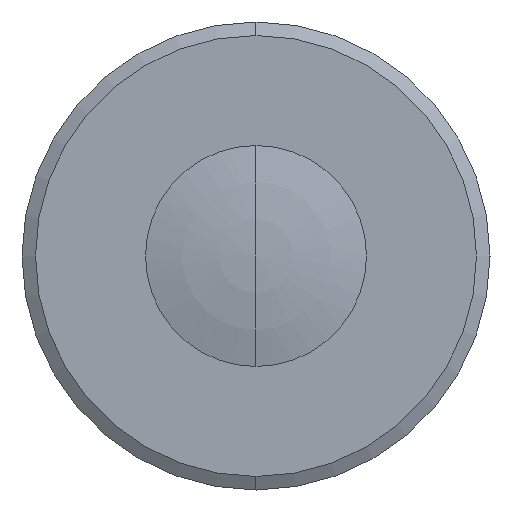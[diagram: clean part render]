
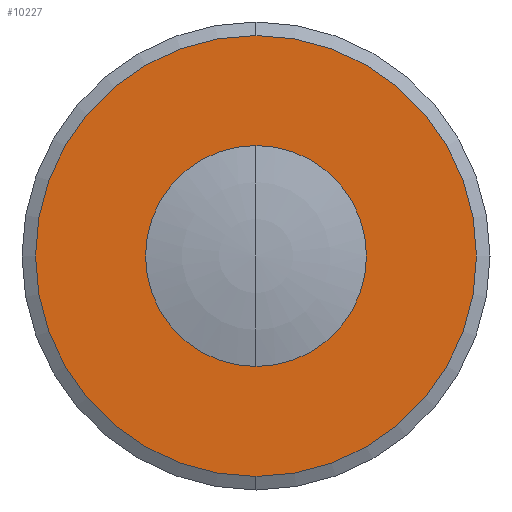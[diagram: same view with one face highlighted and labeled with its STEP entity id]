
A CAD part, left-side view. The second image highlights one B-rep face of the part: STEP entity #10227.
In plain terms, the highlighted planar face has unit normal (-1, 0, 0).
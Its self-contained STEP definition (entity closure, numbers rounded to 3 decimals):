
#3660 = EDGE_LOOP ( 'NONE', ( #9018, #9019 ) ) ;
#3662 = EDGE_LOOP ( 'NONE', ( #9020, #9021 ) ) ;
#3732 = CARTESIAN_POINT ( 'NONE',  ( 9.037, 0., -4.25 ) ) ;
#4511 = AXIS2_PLACEMENT_3D ( 'NONE', #7322, #7327, #7328 ) ;
#4572 = AXIS2_PLACEMENT_3D ( 'NONE', #5007, #5006, #5005 ) ;
#4573 = AXIS2_PLACEMENT_3D ( 'NONE', #5010, #5009, #5008 ) ;
#4582 = AXIS2_PLACEMENT_3D ( 'NONE', #5038, #5037, #5036 ) ;
#4583 = AXIS2_PLACEMENT_3D ( 'NONE', #5046, #5045, #5044 ) ;
#4788 = EDGE_CURVE ( 'NONE', #9327, #9379, #8382, .T. ) ;
#4791 = EDGE_CURVE ( 'NONE', #9328, #9283, #8380, .T. ) ;
#4802 = EDGE_CURVE ( 'NONE', #9283, #9328, #8363, .T. ) ;
#4803 = EDGE_CURVE ( 'NONE', #9379, #9327, #8362, .T. ) ;
#5005 = DIRECTION ( 'NONE',  ( 0., 0., 1. ) ) ;
#5006 = DIRECTION ( 'NONE',  ( -1., 0., 0. ) ) ;
#5007 = CARTESIAN_POINT ( 'NONE',  ( 9.037, 0., 0. ) ) ;
#5008 = DIRECTION ( 'NONE',  ( 0., 0., 1. ) ) ;
#5009 = DIRECTION ( 'NONE',  ( -1., 0., 0. ) ) ;
#5010 = CARTESIAN_POINT ( 'NONE',  ( 9.037, 0., 0. ) ) ;
#5036 = DIRECTION ( 'NONE',  ( 0., 0., 1. ) ) ;
#5037 = DIRECTION ( 'NONE',  ( -1., 0., 0. ) ) ;
#5038 = CARTESIAN_POINT ( 'NONE',  ( 9.037, 0., 0. ) ) ;
#5044 = DIRECTION ( 'NONE',  ( 0., 0., 1. ) ) ;
#5045 = DIRECTION ( 'NONE',  ( -1., 0., 0. ) ) ;
#5046 = CARTESIAN_POINT ( 'NONE',  ( 9.037, 0., 0. ) ) ;
#6446 = CARTESIAN_POINT ( 'NONE',  ( 9.037, 0., -8.48 ) ) ;
#6492 = CARTESIAN_POINT ( 'NONE',  ( 9.037, 0., 4.25 ) ) ;
#6493 = CARTESIAN_POINT ( 'NONE',  ( 9.037, 0., 8.48 ) ) ;
#7322 = CARTESIAN_POINT ( 'NONE',  ( 9.037, 4.25, 0. ) ) ;
#7325 = PLANE ( 'NONE',  #4511 ) ;
#7327 = DIRECTION ( 'NONE',  ( 1., 0., 0. ) ) ;
#7328 = DIRECTION ( 'NONE',  ( 0., 0., -1. ) ) ;
#8147 = FACE_OUTER_BOUND ( 'NONE', #3662, .T. ) ;
#8154 = FACE_BOUND ( 'NONE', #3660, .T. ) ;
#8362 = CIRCLE ( 'NONE', #4572, 8.48 ) ;
#8363 = CIRCLE ( 'NONE', #4573, 4.25 ) ;
#8380 = CIRCLE ( 'NONE', #4582, 4.25 ) ;
#8382 = CIRCLE ( 'NONE', #4583, 8.48 ) ;
#9018 = ORIENTED_EDGE ( 'NONE', *, *, #4791, .F. ) ;
#9019 = ORIENTED_EDGE ( 'NONE', *, *, #4802, .F. ) ;
#9020 = ORIENTED_EDGE ( 'NONE', *, *, #4803, .T. ) ;
#9021 = ORIENTED_EDGE ( 'NONE', *, *, #4788, .T. ) ;
#9283 = VERTEX_POINT ( 'NONE', #3732 ) ;
#9327 = VERTEX_POINT ( 'NONE', #6493 ) ;
#9328 = VERTEX_POINT ( 'NONE', #6492 ) ;
#9379 = VERTEX_POINT ( 'NONE', #6446 ) ;
#10227 = ADVANCED_FACE ( 'NONE', ( #8154, #8147 ), #7325, .F. ) ;
